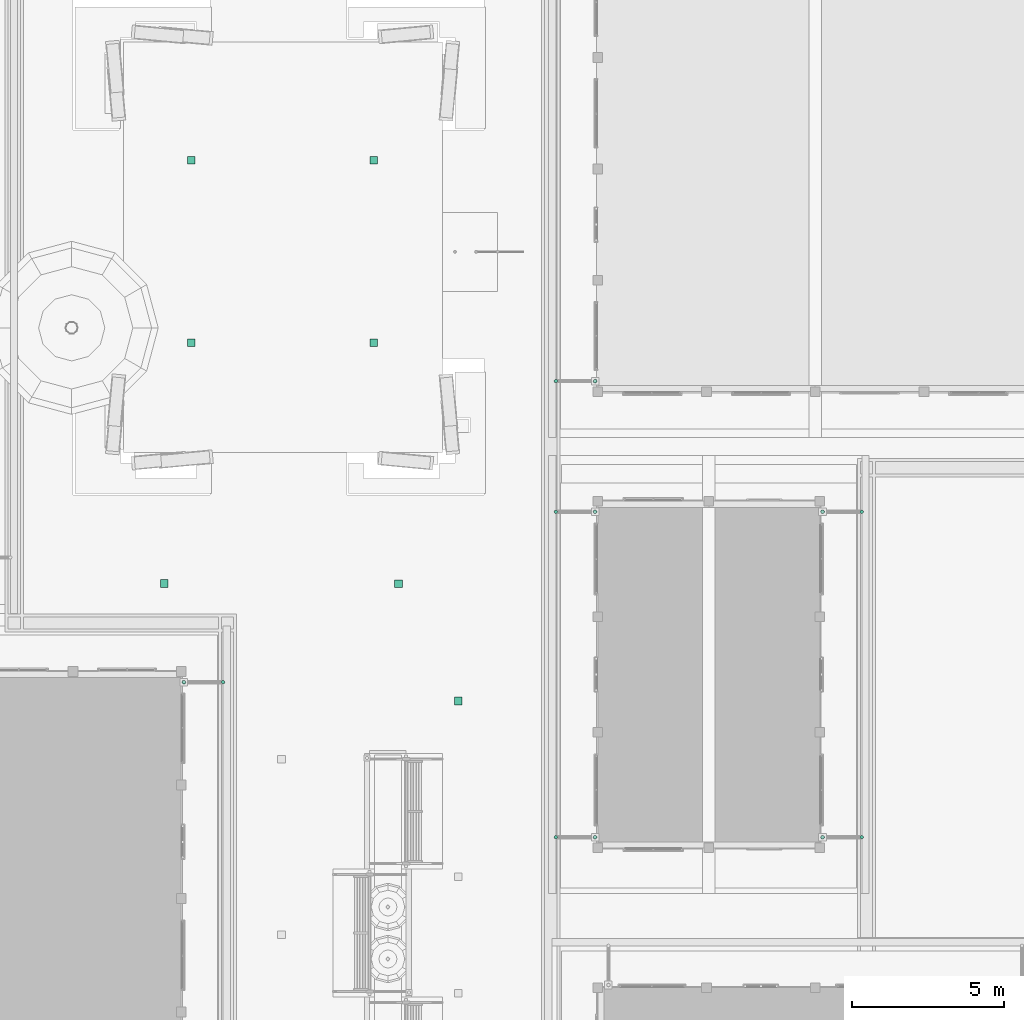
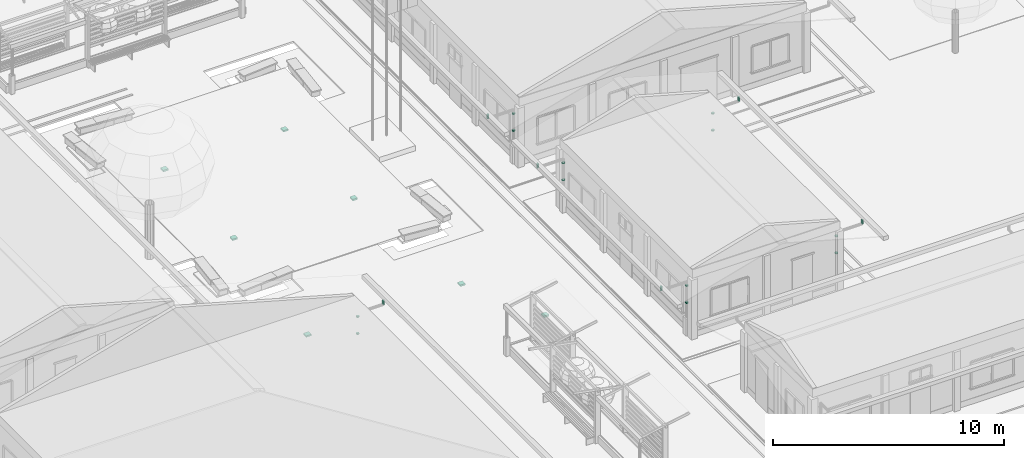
# One storey, part 122 of 177: 18 pipe segments, 7 waste terminals.
"""IFC4 building model written with IfcOpenShell, lengths in metres."""

from ifc_helpers import new_model, si_unit, origin, origin_with_axes, place, context, subcontext, project, spatial, triangles, element, save


model = new_model("IFC4")

# Units and contexts
model_context = context("Model", 3, precision=1e-05, world=origin_with_axes())
body_context = subcontext(model_context, "Body", "Model", "MODEL_VIEW")
ifc_project = project(units=[si_unit("LENGTHUNIT", "METRE"), si_unit("AREAUNIT", "SQUARE_METRE"), si_unit("VOLUMEUNIT", "CUBIC_METRE"), si_unit("PLANEANGLEUNIT", "RADIAN")], contexts=[model_context])

# Site, building, storey
site_placement = place(None, origin_with_axes())
site = spatial("IfcSite", under=ifc_project, at=site_placement, Name="Predio Los Mangos - Morales, San Martín", CompositionType="ELEMENT")
building_placement = place(site_placement, origin())
building = spatial("IfcBuilding", under=site, at=building_placement, Name="Hogar de Refugio Temporal", CompositionType="ELEMENT")
storey_placement = place(building_placement, origin())
storey = spatial("IfcBuildingStorey", under=building, at=storey_placement, Name="NIVEL 1 (NPT +0.00)", CompositionType="ELEMENT", Elevation=0.0)

# Pipe segments
pipe_segment_1_placement = place(storey_placement, origin())
element("IfcPipeSegment", 1, at=pipe_segment_1_placement, inside=storey, Name="montante_boquilla", ObjectType="Montante PVC 4\"", PredefinedType="RIGIDSEGMENT", context=body_context, shape_type="Tessellation", body=[
    triangles([(32.98, 48.405, 3.13), (32.98, 48.405, 2.91), (32.9525, 48.3976, 3.13), (32.9525, 48.3976, 2.91), (32.9324, 48.3775, 3.13), (32.9324, 48.3775, 2.91), (32.925, 48.35, 3.13), (32.925, 48.35, 2.91), (32.9324, 48.3225, 3.13), (32.9324, 48.3225, 2.91), (32.9525, 48.3024, 3.13), (32.9525, 48.3024, 2.91), (32.98, 48.295, 3.13), (32.98, 48.295, 2.91), (33.0075, 48.3024, 3.13), (33.0075, 48.3024, 2.91), (33.0276, 48.3225, 3.13), (33.0276, 48.3225, 2.91), (33.035, 48.35, 3.13), (33.035, 48.35, 2.91), (33.0276, 48.3775, 3.13), (33.0276, 48.3775, 2.91), (33.0075, 48.3976, 3.13), (33.0075, 48.3976, 2.91)], [[1, 2, 4], [1, 4, 3], [3, 4, 6], [3, 6, 5], [5, 6, 8], [5, 8, 7], [7, 8, 10], [7, 10, 9], [9, 10, 12], [9, 12, 11], [11, 12, 14], [11, 14, 13], [13, 14, 16], [13, 16, 15], [15, 16, 18], [15, 18, 17], [17, 18, 20], [17, 20, 19], [19, 20, 22], [19, 22, 21], [6, 4, 2], [2, 24, 22], [22, 20, 18], [18, 16, 14], [14, 12, 10], [10, 8, 6], [6, 2, 22], [22, 18, 14], [14, 10, 6], [22, 14, 6], [21, 22, 24], [21, 24, 23], [23, 24, 2], [23, 2, 1], [23, 1, 3], [3, 5, 7], [7, 9, 11], [11, 13, 15], [15, 17, 19], [19, 21, 23], [23, 3, 7], [7, 11, 15], [15, 19, 23], [7, 15, 23]]),
])
pipe_segment_2_placement = place(storey_placement, origin())
element("IfcPipeSegment", 2, at=pipe_segment_2_placement, inside=storey, Name="montante_abrazadera", ObjectType="Montante PVC 4\"", PredefinedType="RIGIDSEGMENT", context=body_context, shape_type="Tessellation", body=[
    triangles([(31.69, 48.288, 1.8), (31.69, 48.288, 1.84), (31.659, 48.2963, 1.8), (31.659, 48.2963, 1.84), (31.6363, 48.319, 1.8), (31.6363, 48.319, 1.84), (31.628, 48.35, 1.8), (31.628, 48.35, 1.84), (31.6363, 48.381, 1.8), (31.6363, 48.381, 1.84), (31.659, 48.4037, 1.8), (31.659, 48.4037, 1.84), (31.69, 48.412, 1.8), (31.69, 48.412, 1.84), (31.721, 48.4037, 1.8), (31.721, 48.4037, 1.84), (31.7437, 48.381, 1.8), (31.7437, 48.381, 1.84), (31.752, 48.35, 1.8), (31.752, 48.35, 1.84), (31.7437, 48.319, 1.8), (31.7437, 48.319, 1.84), (31.721, 48.2963, 1.8), (31.721, 48.2963, 1.84)], [[1, 2, 4], [1, 4, 3], [3, 4, 6], [3, 6, 5], [5, 6, 8], [5, 8, 7], [7, 8, 10], [7, 10, 9], [9, 10, 12], [9, 12, 11], [11, 12, 14], [11, 14, 13], [13, 14, 16], [13, 16, 15], [15, 16, 18], [15, 18, 17], [17, 18, 20], [17, 20, 19], [19, 20, 22], [19, 22, 21], [6, 4, 2], [2, 24, 22], [22, 20, 18], [18, 16, 14], [14, 12, 10], [10, 8, 6], [6, 2, 22], [22, 18, 14], [14, 10, 6], [22, 14, 6], [21, 22, 24], [21, 24, 23], [23, 24, 2], [23, 2, 1], [23, 1, 3], [3, 5, 7], [7, 9, 11], [11, 13, 15], [15, 17, 19], [19, 21, 23], [23, 3, 7], [7, 11, 15], [15, 19, 23], [7, 15, 23]]),
])
pipe_segment_3_placement = place(storey_placement, origin())
element("IfcPipeSegment", 3, at=pipe_segment_3_placement, inside=storey, Name="montante_abrazadera", ObjectType="Montante PVC 4\"", PredefinedType="RIGIDSEGMENT", context=body_context, shape_type="Tessellation", body=[
    triangles([(31.69, 48.288, 2.7), (31.69, 48.288, 2.74), (31.659, 48.2963, 2.7), (31.659, 48.2963, 2.74), (31.6363, 48.319, 2.7), (31.6363, 48.319, 2.74), (31.628, 48.35, 2.7), (31.628, 48.35, 2.74), (31.6363, 48.381, 2.7), (31.6363, 48.381, 2.74), (31.659, 48.4037, 2.7), (31.659, 48.4037, 2.74), (31.69, 48.412, 2.7), (31.69, 48.412, 2.74), (31.721, 48.4037, 2.7), (31.721, 48.4037, 2.74), (31.7437, 48.381, 2.7), (31.7437, 48.381, 2.74), (31.752, 48.35, 2.7), (31.752, 48.35, 2.74), (31.7437, 48.319, 2.7), (31.7437, 48.319, 2.74), (31.721, 48.2963, 2.7), (31.721, 48.2963, 2.74)], [[1, 2, 4], [1, 4, 3], [3, 4, 6], [3, 6, 5], [5, 6, 8], [5, 8, 7], [7, 8, 10], [7, 10, 9], [9, 10, 12], [9, 12, 11], [11, 12, 14], [11, 14, 13], [13, 14, 16], [13, 16, 15], [15, 16, 18], [15, 18, 17], [17, 18, 20], [17, 20, 19], [19, 20, 22], [19, 22, 21], [6, 4, 2], [2, 24, 22], [22, 20, 18], [18, 16, 14], [14, 12, 10], [10, 8, 6], [6, 2, 22], [22, 18, 14], [14, 10, 6], [22, 14, 6], [21, 22, 24], [21, 24, 23], [23, 24, 2], [23, 2, 1], [23, 1, 3], [3, 5, 7], [7, 9, 11], [11, 13, 15], [15, 17, 19], [19, 21, 23], [23, 3, 7], [7, 11, 15], [15, 19, 23], [7, 15, 23]]),
])
pipe_segment_4_placement = place(storey_placement, origin())
element("IfcPipeSegment", 4, at=pipe_segment_4_placement, inside=storey, Name="montante_boquilla", ObjectType="Montante PVC 4\"", PredefinedType="RIGIDSEGMENT", context=body_context, shape_type="Tessellation", body=[
    triangles([(43.92, 43.305, 3.13), (43.92, 43.305, 2.91), (43.8925, 43.2976, 3.13), (43.8925, 43.2976, 2.91), (43.8724, 43.2775, 3.13), (43.8724, 43.2775, 2.91), (43.865, 43.25, 3.13), (43.865, 43.25, 2.91), (43.8724, 43.2225, 3.13), (43.8724, 43.2225, 2.91), (43.8925, 43.2024, 3.13), (43.8925, 43.2024, 2.91), (43.92, 43.195, 3.13), (43.92, 43.195, 2.91), (43.9475, 43.2024, 3.13), (43.9475, 43.2024, 2.91), (43.9676, 43.2225, 3.13), (43.9676, 43.2225, 2.91), (43.975, 43.25, 3.13), (43.975, 43.25, 2.91), (43.9676, 43.2775, 3.13), (43.9676, 43.2775, 2.91), (43.9475, 43.2976, 3.13), (43.9475, 43.2976, 2.91)], [[1, 2, 4], [1, 4, 3], [3, 4, 6], [3, 6, 5], [5, 6, 8], [5, 8, 7], [7, 8, 10], [7, 10, 9], [9, 10, 12], [9, 12, 11], [11, 12, 14], [11, 14, 13], [13, 14, 16], [13, 16, 15], [15, 16, 18], [15, 18, 17], [17, 18, 20], [17, 20, 19], [19, 20, 22], [19, 22, 21], [6, 4, 2], [2, 24, 22], [22, 20, 18], [18, 16, 14], [14, 12, 10], [10, 8, 6], [6, 2, 22], [22, 18, 14], [14, 10, 6], [22, 14, 6], [21, 22, 24], [21, 24, 23], [23, 24, 2], [23, 2, 1], [23, 1, 3], [3, 5, 7], [7, 9, 11], [11, 13, 15], [15, 17, 19], [19, 21, 23], [23, 3, 7], [7, 11, 15], [15, 19, 23], [7, 15, 23]]),
])
pipe_segment_5_placement = place(storey_placement, origin())
element("IfcPipeSegment", 5, at=pipe_segment_5_placement, inside=storey, Name="montante_abrazadera", ObjectType="Montante PVC 4\"", PredefinedType="RIGIDSEGMENT", context=body_context, shape_type="Tessellation", body=[
    triangles([(45.21, 43.188, 1.8), (45.21, 43.188, 1.84), (45.179, 43.1963, 1.8), (45.179, 43.1963, 1.84), (45.1563, 43.219, 1.8), (45.1563, 43.219, 1.84), (45.148, 43.25, 1.8), (45.148, 43.25, 1.84), (45.1563, 43.281, 1.8), (45.1563, 43.281, 1.84), (45.179, 43.3037, 1.8), (45.179, 43.3037, 1.84), (45.21, 43.312, 1.8), (45.21, 43.312, 1.84), (45.241, 43.3037, 1.8), (45.241, 43.3037, 1.84), (45.2637, 43.281, 1.8), (45.2637, 43.281, 1.84), (45.272, 43.25, 1.8), (45.272, 43.25, 1.84), (45.2637, 43.219, 1.8), (45.2637, 43.219, 1.84), (45.241, 43.1963, 1.8), (45.241, 43.1963, 1.84)], [[1, 2, 4], [1, 4, 3], [3, 4, 6], [3, 6, 5], [5, 6, 8], [5, 8, 7], [7, 8, 10], [7, 10, 9], [9, 10, 12], [9, 12, 11], [11, 12, 14], [11, 14, 13], [13, 14, 16], [13, 16, 15], [15, 16, 18], [15, 18, 17], [17, 18, 20], [17, 20, 19], [19, 20, 22], [19, 22, 21], [6, 4, 2], [2, 24, 22], [22, 20, 18], [18, 16, 14], [14, 12, 10], [10, 8, 6], [6, 2, 22], [22, 18, 14], [14, 10, 6], [22, 14, 6], [21, 22, 24], [21, 24, 23], [23, 24, 2], [23, 2, 1], [23, 1, 3], [3, 5, 7], [7, 9, 11], [11, 13, 15], [15, 17, 19], [19, 21, 23], [23, 3, 7], [7, 11, 15], [15, 19, 23], [7, 15, 23]]),
])
pipe_segment_6_placement = place(storey_placement, origin())
element("IfcPipeSegment", 6, at=pipe_segment_6_placement, inside=storey, Name="montante_abrazadera", ObjectType="Montante PVC 4\"", PredefinedType="RIGIDSEGMENT", context=body_context, shape_type="Tessellation", body=[
    triangles([(45.21, 43.188, 2.7), (45.21, 43.188, 2.74), (45.179, 43.1963, 2.7), (45.179, 43.1963, 2.74), (45.1563, 43.219, 2.7), (45.1563, 43.219, 2.74), (45.148, 43.25, 2.7), (45.148, 43.25, 2.74), (45.1563, 43.281, 2.7), (45.1563, 43.281, 2.74), (45.179, 43.3037, 2.7), (45.179, 43.3037, 2.74), (45.21, 43.312, 2.7), (45.21, 43.312, 2.74), (45.241, 43.3037, 2.7), (45.241, 43.3037, 2.74), (45.2637, 43.281, 2.7), (45.2637, 43.281, 2.74), (45.272, 43.25, 2.7), (45.272, 43.25, 2.74), (45.2637, 43.219, 2.7), (45.2637, 43.219, 2.74), (45.241, 43.1963, 2.7), (45.241, 43.1963, 2.74)], [[1, 2, 4], [1, 4, 3], [3, 4, 6], [3, 6, 5], [5, 6, 8], [5, 8, 7], [7, 8, 10], [7, 10, 9], [9, 10, 12], [9, 12, 11], [11, 12, 14], [11, 14, 13], [13, 14, 16], [13, 16, 15], [15, 16, 18], [15, 18, 17], [17, 18, 20], [17, 20, 19], [19, 20, 22], [19, 22, 21], [6, 4, 2], [2, 24, 22], [22, 20, 18], [18, 16, 14], [14, 12, 10], [10, 8, 6], [6, 2, 22], [22, 18, 14], [14, 10, 6], [22, 14, 6], [21, 22, 24], [21, 24, 23], [23, 24, 2], [23, 2, 1], [23, 1, 3], [3, 5, 7], [7, 9, 11], [11, 13, 15], [15, 17, 19], [19, 21, 23], [23, 3, 7], [7, 11, 15], [15, 19, 23], [7, 15, 23]]),
])
pipe_segment_7_placement = place(storey_placement, origin())
element("IfcPipeSegment", 7, at=pipe_segment_7_placement, inside=storey, Name="montante_boquilla", ObjectType="Montante PVC 4\"", PredefinedType="RIGIDSEGMENT", context=body_context, shape_type="Tessellation", body=[
    triangles([(43.92, 54.005, 3.13), (43.92, 54.005, 2.91), (43.8925, 53.9976, 3.13), (43.8925, 53.9976, 2.91), (43.8724, 53.9775, 3.13), (43.8724, 53.9775, 2.91), (43.865, 53.95, 3.13), (43.865, 53.95, 2.91), (43.8724, 53.9225, 3.13), (43.8724, 53.9225, 2.91), (43.8925, 53.9024, 3.13), (43.8925, 53.9024, 2.91), (43.92, 53.895, 3.13), (43.92, 53.895, 2.91), (43.9475, 53.9024, 3.13), (43.9475, 53.9024, 2.91), (43.9676, 53.9225, 3.13), (43.9676, 53.9225, 2.91), (43.975, 53.95, 3.13), (43.975, 53.95, 2.91), (43.9676, 53.9775, 3.13), (43.9676, 53.9775, 2.91), (43.9475, 53.9976, 3.13), (43.9475, 53.9976, 2.91)], [[1, 2, 4], [1, 4, 3], [3, 4, 6], [3, 6, 5], [5, 6, 8], [5, 8, 7], [7, 8, 10], [7, 10, 9], [9, 10, 12], [9, 12, 11], [11, 12, 14], [11, 14, 13], [13, 14, 16], [13, 16, 15], [15, 16, 18], [15, 18, 17], [17, 18, 20], [17, 20, 19], [19, 20, 22], [19, 22, 21], [6, 4, 2], [2, 24, 22], [22, 20, 18], [18, 16, 14], [14, 12, 10], [10, 8, 6], [6, 2, 22], [22, 18, 14], [14, 10, 6], [22, 14, 6], [21, 22, 24], [21, 24, 23], [23, 24, 2], [23, 2, 1], [23, 1, 3], [3, 5, 7], [7, 9, 11], [11, 13, 15], [15, 17, 19], [19, 21, 23], [23, 3, 7], [7, 11, 15], [15, 19, 23], [7, 15, 23]]),
])
pipe_segment_8_placement = place(storey_placement, origin())
element("IfcPipeSegment", 8, at=pipe_segment_8_placement, inside=storey, Name="montante_abrazadera", ObjectType="Montante PVC 4\"", PredefinedType="RIGIDSEGMENT", context=body_context, shape_type="Tessellation", body=[
    triangles([(45.21, 53.888, 1.8), (45.21, 53.888, 1.84), (45.179, 53.8963, 1.8), (45.179, 53.8963, 1.84), (45.1563, 53.919, 1.8), (45.1563, 53.919, 1.84), (45.148, 53.95, 1.8), (45.148, 53.95, 1.84), (45.1563, 53.981, 1.8), (45.1563, 53.981, 1.84), (45.179, 54.0037, 1.8), (45.179, 54.0037, 1.84), (45.21, 54.012, 1.8), (45.21, 54.012, 1.84), (45.241, 54.0037, 1.8), (45.241, 54.0037, 1.84), (45.2637, 53.981, 1.8), (45.2637, 53.981, 1.84), (45.272, 53.95, 1.8), (45.272, 53.95, 1.84), (45.2637, 53.919, 1.8), (45.2637, 53.919, 1.84), (45.241, 53.8963, 1.8), (45.241, 53.8963, 1.84)], [[1, 2, 4], [1, 4, 3], [3, 4, 6], [3, 6, 5], [5, 6, 8], [5, 8, 7], [7, 8, 10], [7, 10, 9], [9, 10, 12], [9, 12, 11], [11, 12, 14], [11, 14, 13], [13, 14, 16], [13, 16, 15], [15, 16, 18], [15, 18, 17], [17, 18, 20], [17, 20, 19], [19, 20, 22], [19, 22, 21], [6, 4, 2], [2, 24, 22], [22, 20, 18], [18, 16, 14], [14, 12, 10], [10, 8, 6], [6, 2, 22], [22, 18, 14], [14, 10, 6], [22, 14, 6], [21, 22, 24], [21, 24, 23], [23, 24, 2], [23, 2, 1], [23, 1, 3], [3, 5, 7], [7, 9, 11], [11, 13, 15], [15, 17, 19], [19, 21, 23], [23, 3, 7], [7, 11, 15], [15, 19, 23], [7, 15, 23]]),
])
pipe_segment_9_placement = place(storey_placement, origin())
element("IfcPipeSegment", 9, at=pipe_segment_9_placement, inside=storey, Name="montante_abrazadera", ObjectType="Montante PVC 4\"", PredefinedType="RIGIDSEGMENT", context=body_context, shape_type="Tessellation", body=[
    triangles([(45.21, 53.888, 2.7), (45.21, 53.888, 2.74), (45.179, 53.8963, 2.7), (45.179, 53.8963, 2.74), (45.1563, 53.919, 2.7), (45.1563, 53.919, 2.74), (45.148, 53.95, 2.7), (45.148, 53.95, 2.74), (45.1563, 53.981, 2.7), (45.1563, 53.981, 2.74), (45.179, 54.0037, 2.7), (45.179, 54.0037, 2.74), (45.21, 54.012, 2.7), (45.21, 54.012, 2.74), (45.241, 54.0037, 2.7), (45.241, 54.0037, 2.74), (45.2637, 53.981, 2.7), (45.2637, 53.981, 2.74), (45.272, 53.95, 2.7), (45.272, 53.95, 2.74), (45.2637, 53.919, 2.7), (45.2637, 53.919, 2.74), (45.241, 53.8963, 2.7), (45.241, 53.8963, 2.74)], [[1, 2, 4], [1, 4, 3], [3, 4, 6], [3, 6, 5], [5, 6, 8], [5, 8, 7], [7, 8, 10], [7, 10, 9], [9, 10, 12], [9, 12, 11], [11, 12, 14], [11, 14, 13], [13, 14, 16], [13, 16, 15], [15, 16, 18], [15, 18, 17], [17, 18, 20], [17, 20, 19], [19, 20, 22], [19, 22, 21], [6, 4, 2], [2, 24, 22], [22, 20, 18], [18, 16, 14], [14, 12, 10], [10, 8, 6], [6, 2, 22], [22, 18, 14], [14, 10, 6], [22, 14, 6], [21, 22, 24], [21, 24, 23], [23, 24, 2], [23, 2, 1], [23, 1, 3], [3, 5, 7], [7, 9, 11], [11, 13, 15], [15, 17, 19], [19, 21, 23], [23, 3, 7], [7, 11, 15], [15, 19, 23], [7, 15, 23]]),
])
pipe_segment_10_placement = place(storey_placement, origin())
element("IfcPipeSegment", 10, at=pipe_segment_10_placement, inside=storey, Name="montante_boquilla", ObjectType="Montante PVC 4\"", PredefinedType="RIGIDSEGMENT", context=body_context, shape_type="Tessellation", body=[
    triangles([(53.98, 43.305, 3.13), (53.98, 43.305, 2.91), (53.9525, 43.2976, 3.13), (53.9525, 43.2976, 2.91), (53.9324, 43.2775, 3.13), (53.9324, 43.2775, 2.91), (53.925, 43.25, 3.13), (53.925, 43.25, 2.91), (53.9324, 43.2225, 3.13), (53.9324, 43.2225, 2.91), (53.9525, 43.2024, 3.13), (53.9525, 43.2024, 2.91), (53.98, 43.195, 3.13), (53.98, 43.195, 2.91), (54.0075, 43.2024, 3.13), (54.0075, 43.2024, 2.91), (54.0276, 43.2225, 3.13), (54.0276, 43.2225, 2.91), (54.035, 43.25, 3.13), (54.035, 43.25, 2.91), (54.0276, 43.2775, 3.13), (54.0276, 43.2775, 2.91), (54.0075, 43.2976, 3.13), (54.0075, 43.2976, 2.91)], [[1, 2, 4], [1, 4, 3], [3, 4, 6], [3, 6, 5], [5, 6, 8], [5, 8, 7], [7, 8, 10], [7, 10, 9], [9, 10, 12], [9, 12, 11], [11, 12, 14], [11, 14, 13], [13, 14, 16], [13, 16, 15], [15, 16, 18], [15, 18, 17], [17, 18, 20], [17, 20, 19], [19, 20, 22], [19, 22, 21], [6, 4, 2], [2, 24, 22], [22, 20, 18], [18, 16, 14], [14, 12, 10], [10, 8, 6], [6, 2, 22], [22, 18, 14], [14, 10, 6], [22, 14, 6], [21, 22, 24], [21, 24, 23], [23, 24, 2], [23, 2, 1], [23, 1, 3], [3, 5, 7], [7, 9, 11], [11, 13, 15], [15, 17, 19], [19, 21, 23], [23, 3, 7], [7, 11, 15], [15, 19, 23], [7, 15, 23]]),
])
pipe_segment_11_placement = place(storey_placement, origin())
element("IfcPipeSegment", 11, at=pipe_segment_11_placement, inside=storey, Name="montante_abrazadera", ObjectType="Montante PVC 4\"", PredefinedType="RIGIDSEGMENT", context=body_context, shape_type="Tessellation", body=[
    triangles([(52.69, 43.188, 1.8), (52.69, 43.188, 1.84), (52.659, 43.1963, 1.8), (52.659, 43.1963, 1.84), (52.6363, 43.219, 1.8), (52.6363, 43.219, 1.84), (52.628, 43.25, 1.8), (52.628, 43.25, 1.84), (52.6363, 43.281, 1.8), (52.6363, 43.281, 1.84), (52.659, 43.3037, 1.8), (52.659, 43.3037, 1.84), (52.69, 43.312, 1.8), (52.69, 43.312, 1.84), (52.721, 43.3037, 1.8), (52.721, 43.3037, 1.84), (52.7437, 43.281, 1.8), (52.7437, 43.281, 1.84), (52.752, 43.25, 1.8), (52.752, 43.25, 1.84), (52.7437, 43.219, 1.8), (52.7437, 43.219, 1.84), (52.721, 43.1963, 1.8), (52.721, 43.1963, 1.84)], [[1, 2, 4], [1, 4, 3], [3, 4, 6], [3, 6, 5], [5, 6, 8], [5, 8, 7], [7, 8, 10], [7, 10, 9], [9, 10, 12], [9, 12, 11], [11, 12, 14], [11, 14, 13], [13, 14, 16], [13, 16, 15], [15, 16, 18], [15, 18, 17], [17, 18, 20], [17, 20, 19], [19, 20, 22], [19, 22, 21], [6, 4, 2], [2, 24, 22], [22, 20, 18], [18, 16, 14], [14, 12, 10], [10, 8, 6], [6, 2, 22], [22, 18, 14], [14, 10, 6], [22, 14, 6], [21, 22, 24], [21, 24, 23], [23, 24, 2], [23, 2, 1], [23, 1, 3], [3, 5, 7], [7, 9, 11], [11, 13, 15], [15, 17, 19], [19, 21, 23], [23, 3, 7], [7, 11, 15], [15, 19, 23], [7, 15, 23]]),
])
pipe_segment_12_placement = place(storey_placement, origin())
element("IfcPipeSegment", 12, at=pipe_segment_12_placement, inside=storey, Name="montante_abrazadera", ObjectType="Montante PVC 4\"", PredefinedType="RIGIDSEGMENT", context=body_context, shape_type="Tessellation", body=[
    triangles([(52.69, 43.188, 2.7), (52.69, 43.188, 2.74), (52.659, 43.1963, 2.7), (52.659, 43.1963, 2.74), (52.6363, 43.219, 2.7), (52.6363, 43.219, 2.74), (52.628, 43.25, 2.7), (52.628, 43.25, 2.74), (52.6363, 43.281, 2.7), (52.6363, 43.281, 2.74), (52.659, 43.3037, 2.7), (52.659, 43.3037, 2.74), (52.69, 43.312, 2.7), (52.69, 43.312, 2.74), (52.721, 43.3037, 2.7), (52.721, 43.3037, 2.74), (52.7437, 43.281, 2.7), (52.7437, 43.281, 2.74), (52.752, 43.25, 2.7), (52.752, 43.25, 2.74), (52.7437, 43.219, 2.7), (52.7437, 43.219, 2.74), (52.721, 43.1963, 2.7), (52.721, 43.1963, 2.74)], [[1, 2, 4], [1, 4, 3], [3, 4, 6], [3, 6, 5], [5, 6, 8], [5, 8, 7], [7, 8, 10], [7, 10, 9], [9, 10, 12], [9, 12, 11], [11, 12, 14], [11, 14, 13], [13, 14, 16], [13, 16, 15], [15, 16, 18], [15, 18, 17], [17, 18, 20], [17, 20, 19], [19, 20, 22], [19, 22, 21], [6, 4, 2], [2, 24, 22], [22, 20, 18], [18, 16, 14], [14, 12, 10], [10, 8, 6], [6, 2, 22], [22, 18, 14], [14, 10, 6], [22, 14, 6], [21, 22, 24], [21, 24, 23], [23, 24, 2], [23, 2, 1], [23, 1, 3], [3, 5, 7], [7, 9, 11], [11, 13, 15], [15, 17, 19], [19, 21, 23], [23, 3, 7], [7, 11, 15], [15, 19, 23], [7, 15, 23]]),
])
pipe_segment_13_placement = place(storey_placement, origin())
element("IfcPipeSegment", 13, at=pipe_segment_13_placement, inside=storey, Name="montante_boquilla", ObjectType="Montante PVC 4\"", PredefinedType="RIGIDSEGMENT", context=body_context, shape_type="Tessellation", body=[
    triangles([(53.98, 54.005, 3.13), (53.98, 54.005, 2.91), (53.9525, 53.9976, 3.13), (53.9525, 53.9976, 2.91), (53.9324, 53.9775, 3.13), (53.9324, 53.9775, 2.91), (53.925, 53.95, 3.13), (53.925, 53.95, 2.91), (53.9324, 53.9225, 3.13), (53.9324, 53.9225, 2.91), (53.9525, 53.9024, 3.13), (53.9525, 53.9024, 2.91), (53.98, 53.895, 3.13), (53.98, 53.895, 2.91), (54.0075, 53.9024, 3.13), (54.0075, 53.9024, 2.91), (54.0276, 53.9225, 3.13), (54.0276, 53.9225, 2.91), (54.035, 53.95, 3.13), (54.035, 53.95, 2.91), (54.0276, 53.9775, 3.13), (54.0276, 53.9775, 2.91), (54.0075, 53.9976, 3.13), (54.0075, 53.9976, 2.91)], [[1, 2, 4], [1, 4, 3], [3, 4, 6], [3, 6, 5], [5, 6, 8], [5, 8, 7], [7, 8, 10], [7, 10, 9], [9, 10, 12], [9, 12, 11], [11, 12, 14], [11, 14, 13], [13, 14, 16], [13, 16, 15], [15, 16, 18], [15, 18, 17], [17, 18, 20], [17, 20, 19], [19, 20, 22], [19, 22, 21], [6, 4, 2], [2, 24, 22], [22, 20, 18], [18, 16, 14], [14, 12, 10], [10, 8, 6], [6, 2, 22], [22, 18, 14], [14, 10, 6], [22, 14, 6], [21, 22, 24], [21, 24, 23], [23, 24, 2], [23, 2, 1], [23, 1, 3], [3, 5, 7], [7, 9, 11], [11, 13, 15], [15, 17, 19], [19, 21, 23], [23, 3, 7], [7, 11, 15], [15, 19, 23], [7, 15, 23]]),
])
pipe_segment_14_placement = place(storey_placement, origin())
element("IfcPipeSegment", 14, at=pipe_segment_14_placement, inside=storey, Name="montante_abrazadera", ObjectType="Montante PVC 4\"", PredefinedType="RIGIDSEGMENT", context=body_context, shape_type="Tessellation", body=[
    triangles([(52.69, 53.888, 1.8), (52.69, 53.888, 1.84), (52.659, 53.8963, 1.8), (52.659, 53.8963, 1.84), (52.6363, 53.919, 1.8), (52.6363, 53.919, 1.84), (52.628, 53.95, 1.8), (52.628, 53.95, 1.84), (52.6363, 53.981, 1.8), (52.6363, 53.981, 1.84), (52.659, 54.0037, 1.8), (52.659, 54.0037, 1.84), (52.69, 54.012, 1.8), (52.69, 54.012, 1.84), (52.721, 54.0037, 1.8), (52.721, 54.0037, 1.84), (52.7437, 53.981, 1.8), (52.7437, 53.981, 1.84), (52.752, 53.95, 1.8), (52.752, 53.95, 1.84), (52.7437, 53.919, 1.8), (52.7437, 53.919, 1.84), (52.721, 53.8963, 1.8), (52.721, 53.8963, 1.84)], [[1, 2, 4], [1, 4, 3], [3, 4, 6], [3, 6, 5], [5, 6, 8], [5, 8, 7], [7, 8, 10], [7, 10, 9], [9, 10, 12], [9, 12, 11], [11, 12, 14], [11, 14, 13], [13, 14, 16], [13, 16, 15], [15, 16, 18], [15, 18, 17], [17, 18, 20], [17, 20, 19], [19, 20, 22], [19, 22, 21], [6, 4, 2], [2, 24, 22], [22, 20, 18], [18, 16, 14], [14, 12, 10], [10, 8, 6], [6, 2, 22], [22, 18, 14], [14, 10, 6], [22, 14, 6], [21, 22, 24], [21, 24, 23], [23, 24, 2], [23, 2, 1], [23, 1, 3], [3, 5, 7], [7, 9, 11], [11, 13, 15], [15, 17, 19], [19, 21, 23], [23, 3, 7], [7, 11, 15], [15, 19, 23], [7, 15, 23]]),
])
pipe_segment_15_placement = place(storey_placement, origin())
element("IfcPipeSegment", 15, at=pipe_segment_15_placement, inside=storey, Name="montante_abrazadera", ObjectType="Montante PVC 4\"", PredefinedType="RIGIDSEGMENT", context=body_context, shape_type="Tessellation", body=[
    triangles([(52.69, 53.888, 2.7), (52.69, 53.888, 2.74), (52.659, 53.8963, 2.7), (52.659, 53.8963, 2.74), (52.6363, 53.919, 2.7), (52.6363, 53.919, 2.74), (52.628, 53.95, 2.7), (52.628, 53.95, 2.74), (52.6363, 53.981, 2.7), (52.6363, 53.981, 2.74), (52.659, 54.0037, 2.7), (52.659, 54.0037, 2.74), (52.69, 54.012, 2.7), (52.69, 54.012, 2.74), (52.721, 54.0037, 2.7), (52.721, 54.0037, 2.74), (52.7437, 53.981, 2.7), (52.7437, 53.981, 2.74), (52.752, 53.95, 2.7), (52.752, 53.95, 2.74), (52.7437, 53.919, 2.7), (52.7437, 53.919, 2.74), (52.721, 53.8963, 2.7), (52.721, 53.8963, 2.74)], [[1, 2, 4], [1, 4, 3], [3, 4, 6], [3, 6, 5], [5, 6, 8], [5, 8, 7], [7, 8, 10], [7, 10, 9], [9, 10, 12], [9, 12, 11], [11, 12, 14], [11, 14, 13], [13, 14, 16], [13, 16, 15], [15, 16, 18], [15, 18, 17], [17, 18, 20], [17, 20, 19], [19, 20, 22], [19, 22, 21], [6, 4, 2], [2, 24, 22], [22, 20, 18], [18, 16, 14], [14, 12, 10], [10, 8, 6], [6, 2, 22], [22, 18, 14], [14, 10, 6], [22, 14, 6], [21, 22, 24], [21, 24, 23], [23, 24, 2], [23, 2, 1], [23, 1, 3], [3, 5, 7], [7, 9, 11], [11, 13, 15], [15, 17, 19], [19, 21, 23], [23, 3, 7], [7, 11, 15], [15, 19, 23], [7, 15, 23]]),
])
pipe_segment_16_placement = place(storey_placement, origin())
element("IfcPipeSegment", 16, at=pipe_segment_16_placement, inside=storey, Name="montante_boquilla", ObjectType="Montante PVC 4\"", PredefinedType="RIGIDSEGMENT", context=body_context, shape_type="Tessellation", body=[
    triangles([(43.92, 58.305, 3.13), (43.92, 58.305, 2.91), (43.8925, 58.2976, 3.13), (43.8925, 58.2976, 2.91), (43.8724, 58.2775, 3.13), (43.8724, 58.2775, 2.91), (43.865, 58.25, 3.13), (43.865, 58.25, 2.91), (43.8724, 58.2225, 3.13), (43.8724, 58.2225, 2.91), (43.8925, 58.2024, 3.13), (43.8925, 58.2024, 2.91), (43.92, 58.195, 3.13), (43.92, 58.195, 2.91), (43.9475, 58.2024, 3.13), (43.9475, 58.2024, 2.91), (43.9676, 58.2225, 3.13), (43.9676, 58.2225, 2.91), (43.975, 58.25, 3.13), (43.975, 58.25, 2.91), (43.9676, 58.2775, 3.13), (43.9676, 58.2775, 2.91), (43.9475, 58.2976, 3.13), (43.9475, 58.2976, 2.91)], [[1, 2, 4], [1, 4, 3], [3, 4, 6], [3, 6, 5], [5, 6, 8], [5, 8, 7], [7, 8, 10], [7, 10, 9], [9, 10, 12], [9, 12, 11], [11, 12, 14], [11, 14, 13], [13, 14, 16], [13, 16, 15], [15, 16, 18], [15, 18, 17], [17, 18, 20], [17, 20, 19], [19, 20, 22], [19, 22, 21], [6, 4, 2], [2, 24, 22], [22, 20, 18], [18, 16, 14], [14, 12, 10], [10, 8, 6], [6, 2, 22], [22, 18, 14], [14, 10, 6], [22, 14, 6], [21, 22, 24], [21, 24, 23], [23, 24, 2], [23, 2, 1], [23, 1, 3], [3, 5, 7], [7, 9, 11], [11, 13, 15], [15, 17, 19], [19, 21, 23], [23, 3, 7], [7, 11, 15], [15, 19, 23], [7, 15, 23]]),
])
pipe_segment_17_placement = place(storey_placement, origin())
element("IfcPipeSegment", 17, at=pipe_segment_17_placement, inside=storey, Name="montante_abrazadera", ObjectType="Montante PVC 4\"", PredefinedType="RIGIDSEGMENT", context=body_context, shape_type="Tessellation", body=[
    triangles([(45.21, 58.188, 1.8), (45.21, 58.188, 1.84), (45.179, 58.1963, 1.8), (45.179, 58.1963, 1.84), (45.1563, 58.219, 1.8), (45.1563, 58.219, 1.84), (45.148, 58.25, 1.8), (45.148, 58.25, 1.84), (45.1563, 58.281, 1.8), (45.1563, 58.281, 1.84), (45.179, 58.3037, 1.8), (45.179, 58.3037, 1.84), (45.21, 58.312, 1.8), (45.21, 58.312, 1.84), (45.241, 58.3037, 1.8), (45.241, 58.3037, 1.84), (45.2637, 58.281, 1.8), (45.2637, 58.281, 1.84), (45.272, 58.25, 1.8), (45.272, 58.25, 1.84), (45.2637, 58.219, 1.8), (45.2637, 58.219, 1.84), (45.241, 58.1963, 1.8), (45.241, 58.1963, 1.84)], [[1, 2, 4], [1, 4, 3], [3, 4, 6], [3, 6, 5], [5, 6, 8], [5, 8, 7], [7, 8, 10], [7, 10, 9], [9, 10, 12], [9, 12, 11], [11, 12, 14], [11, 14, 13], [13, 14, 16], [13, 16, 15], [15, 16, 18], [15, 18, 17], [17, 18, 20], [17, 20, 19], [19, 20, 22], [19, 22, 21], [6, 4, 2], [2, 24, 22], [22, 20, 18], [18, 16, 14], [14, 12, 10], [10, 8, 6], [6, 2, 22], [22, 18, 14], [14, 10, 6], [22, 14, 6], [21, 22, 24], [21, 24, 23], [23, 24, 2], [23, 2, 1], [23, 1, 3], [3, 5, 7], [7, 9, 11], [11, 13, 15], [15, 17, 19], [19, 21, 23], [23, 3, 7], [7, 11, 15], [15, 19, 23], [7, 15, 23]]),
])
pipe_segment_18_placement = place(storey_placement, origin())
element("IfcPipeSegment", 18, at=pipe_segment_18_placement, inside=storey, Name="montante_abrazadera", ObjectType="Montante PVC 4\"", PredefinedType="RIGIDSEGMENT", context=body_context, shape_type="Tessellation", body=[
    triangles([(45.21, 58.188, 2.7), (45.21, 58.188, 2.74), (45.179, 58.1963, 2.7), (45.179, 58.1963, 2.74), (45.1563, 58.219, 2.7), (45.1563, 58.219, 2.74), (45.148, 58.25, 2.7), (45.148, 58.25, 2.74), (45.1563, 58.281, 2.7), (45.1563, 58.281, 2.74), (45.179, 58.3037, 2.7), (45.179, 58.3037, 2.74), (45.21, 58.312, 2.7), (45.21, 58.312, 2.74), (45.241, 58.3037, 2.7), (45.241, 58.3037, 2.74), (45.2637, 58.281, 2.7), (45.2637, 58.281, 2.74), (45.272, 58.25, 2.7), (45.272, 58.25, 2.74), (45.2637, 58.219, 2.7), (45.2637, 58.219, 2.74), (45.241, 58.1963, 2.7), (45.241, 58.1963, 2.74)], [[1, 2, 4], [1, 4, 3], [3, 4, 6], [3, 6, 5], [5, 6, 8], [5, 8, 7], [7, 8, 10], [7, 10, 9], [9, 10, 12], [9, 12, 11], [11, 12, 14], [11, 14, 13], [13, 14, 16], [13, 16, 15], [15, 16, 18], [15, 18, 17], [17, 18, 20], [17, 20, 19], [19, 20, 22], [19, 22, 21], [6, 4, 2], [2, 24, 22], [22, 20, 18], [18, 16, 14], [14, 12, 10], [10, 8, 6], [6, 2, 22], [22, 18, 14], [14, 10, 6], [22, 14, 6], [21, 22, 24], [21, 24, 23], [23, 24, 2], [23, 2, 1], [23, 1, 3], [3, 5, 7], [7, 9, 11], [11, 13, 15], [15, 17, 19], [19, 21, 23], [23, 3, 7], [7, 11, 15], [15, 19, 23], [7, 15, 23]]),
])

# Waste terminals
waste_terminal_1_placement = place(storey_placement, origin())
element("IfcWasteTerminal", 19, at=waste_terminal_1_placement, inside=storey, Name="sumidero_fondo", ObjectType="Sumidero con rejilla", PredefinedType="GULLYTRAP", context=body_context, shape_type="Tessellation", body=[
    triangles([(31.81, 65.384, -0.02), (32.06, 65.384, -0.02), (32.06, 65.634, -0.02), (31.81, 65.634, -0.02), (31.81, 65.384, 0.064), (32.06, 65.384, 0.064), (32.06, 65.634, 0.064), (31.81, 65.634, 0.064)], [[1, 4, 3], [1, 3, 2], [5, 6, 7], [5, 7, 8], [1, 2, 6], [1, 6, 5], [2, 3, 7], [2, 7, 6], [3, 4, 8], [3, 8, 7], [4, 1, 5], [4, 5, 8]]),
])
waste_terminal_2_placement = place(storey_placement, origin())
element("IfcWasteTerminal", 20, at=waste_terminal_2_placement, inside=storey, Name="sumidero_fondo", ObjectType="Sumidero con rejilla", PredefinedType="GULLYTRAP", context=body_context, shape_type="Tessellation", body=[
    triangles([(31.81, 59.384, -0.02), (32.06, 59.384, -0.02), (32.06, 59.634, -0.02), (31.81, 59.634, -0.02), (31.81, 59.384, 0.064), (32.06, 59.384, 0.064), (32.06, 59.634, 0.064), (31.81, 59.634, 0.064)], [[1, 4, 3], [1, 3, 2], [5, 6, 7], [5, 7, 8], [1, 2, 6], [1, 6, 5], [2, 3, 7], [2, 7, 6], [3, 4, 8], [3, 8, 7], [4, 1, 5], [4, 5, 8]]),
])
waste_terminal_3_placement = place(storey_placement, origin())
element("IfcWasteTerminal", 21, at=waste_terminal_3_placement, inside=storey, Name="sumidero_fondo", ObjectType="Sumidero con rejilla", PredefinedType="GULLYTRAP", context=body_context, shape_type="Tessellation", body=[
    triangles([(37.81, 59.384, -0.02), (38.06, 59.384, -0.02), (38.06, 59.634, -0.02), (37.81, 59.634, -0.02), (37.81, 59.384, 0.064), (38.06, 59.384, 0.064), (38.06, 59.634, 0.064), (37.81, 59.634, 0.064)], [[1, 4, 3], [1, 3, 2], [5, 6, 7], [5, 7, 8], [1, 2, 6], [1, 6, 5], [2, 3, 7], [2, 7, 6], [3, 4, 8], [3, 8, 7], [4, 1, 5], [4, 5, 8]]),
])
waste_terminal_4_placement = place(storey_placement, origin())
element("IfcWasteTerminal", 22, at=waste_terminal_4_placement, inside=storey, Name="sumidero_fondo", ObjectType="Sumidero con rejilla", PredefinedType="GULLYTRAP", context=body_context, shape_type="Tessellation", body=[
    triangles([(37.81, 65.384, -0.02), (38.06, 65.384, -0.02), (38.06, 65.634, -0.02), (37.81, 65.634, -0.02), (37.81, 65.384, 0.064), (38.06, 65.384, 0.064), (38.06, 65.634, 0.064), (37.81, 65.634, 0.064)], [[1, 4, 3], [1, 3, 2], [5, 6, 7], [5, 7, 8], [1, 2, 6], [1, 6, 5], [2, 3, 7], [2, 7, 6], [3, 4, 8], [3, 8, 7], [4, 1, 5], [4, 5, 8]]),
])
waste_terminal_5_placement = place(storey_placement, origin())
element("IfcWasteTerminal", 23, at=waste_terminal_5_placement, inside=storey, Name="sumidero_fondo", ObjectType="Sumidero con rejilla", PredefinedType="GULLYTRAP", context=body_context, shape_type="Tessellation", body=[
    triangles([(30.922, 51.469, -0.02), (31.172, 51.469, -0.02), (31.172, 51.719, -0.02), (30.922, 51.719, -0.02), (30.922, 51.469, 0.064), (31.172, 51.469, 0.064), (31.172, 51.719, 0.064), (30.922, 51.719, 0.064)], [[1, 4, 3], [1, 3, 2], [5, 6, 7], [5, 7, 8], [1, 2, 6], [1, 6, 5], [2, 3, 7], [2, 7, 6], [3, 4, 8], [3, 8, 7], [4, 1, 5], [4, 5, 8]]),
])
waste_terminal_6_placement = place(storey_placement, origin())
element("IfcWasteTerminal", 24, at=waste_terminal_6_placement, inside=storey, Name="sumidero_fondo", ObjectType="Sumidero con rejilla", PredefinedType="GULLYTRAP", context=body_context, shape_type="Tessellation", body=[
    triangles([(38.622, 51.454, -0.02), (38.872, 51.454, -0.02), (38.872, 51.704, -0.02), (38.622, 51.704, -0.02), (38.622, 51.454, 0.064), (38.872, 51.454, 0.064), (38.872, 51.704, 0.064), (38.622, 51.704, 0.064)], [[1, 4, 3], [1, 3, 2], [5, 6, 7], [5, 7, 8], [1, 2, 6], [1, 6, 5], [2, 3, 7], [2, 7, 6], [3, 4, 8], [3, 8, 7], [4, 1, 5], [4, 5, 8]]),
])
waste_terminal_7_placement = place(storey_placement, origin())
element("IfcWasteTerminal", 25, at=waste_terminal_7_placement, inside=storey, Name="sumidero_fondo", ObjectType="Sumidero con rejilla", PredefinedType="GULLYTRAP", context=body_context, shape_type="Tessellation", body=[
    triangles([(40.585, 47.604, -0.02), (40.835, 47.604, -0.02), (40.835, 47.854, -0.02), (40.585, 47.854, -0.02), (40.585, 47.604, 0.064), (40.835, 47.604, 0.064), (40.835, 47.854, 0.064), (40.585, 47.854, 0.064)], [[1, 4, 3], [1, 3, 2], [5, 6, 7], [5, 7, 8], [1, 2, 6], [1, 6, 5], [2, 3, 7], [2, 7, 6], [3, 4, 8], [3, 8, 7], [4, 1, 5], [4, 5, 8]]),
])

save(model, "model.ifc")
